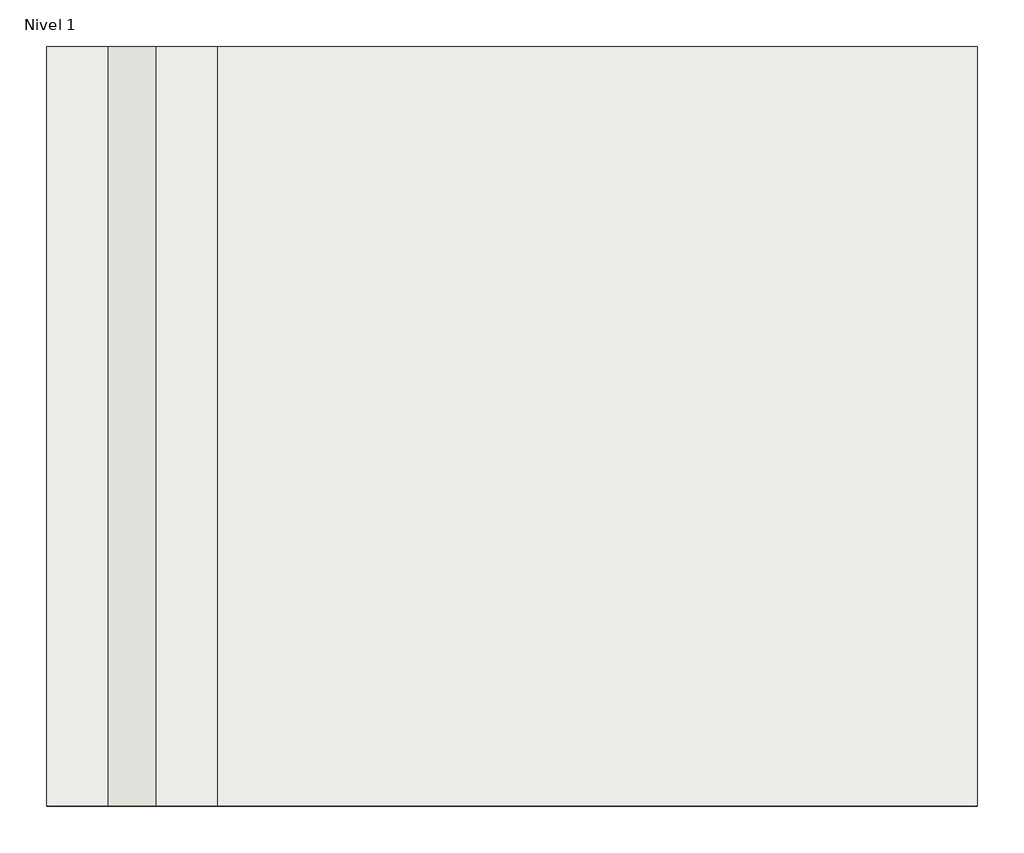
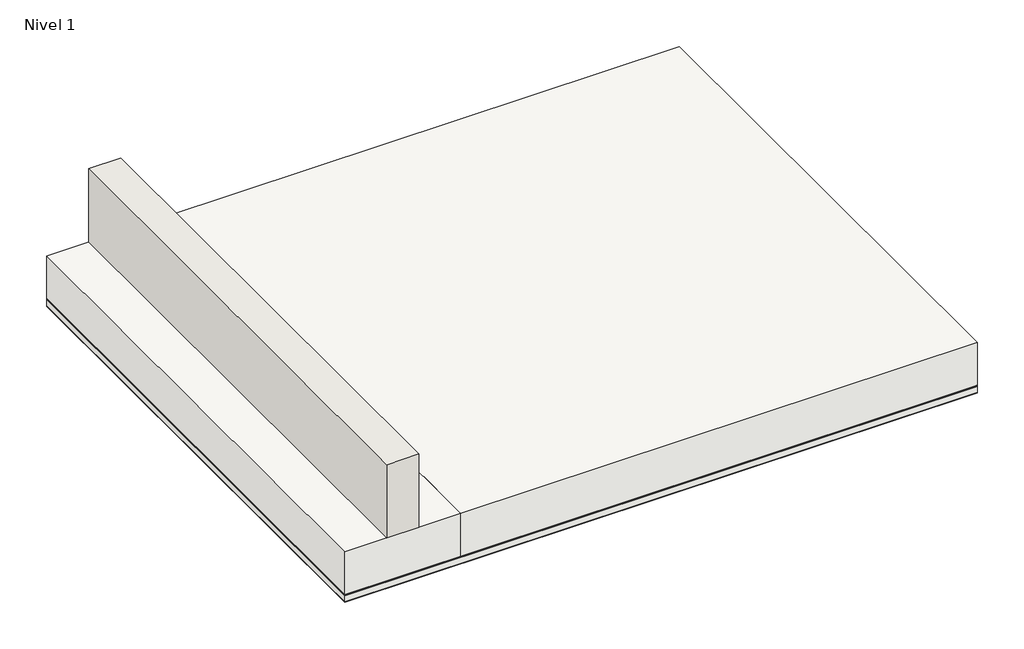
# One storey: 2 slabs, 1 footing, 1 wall.
"""IFC4 building model written with IfcOpenShell, lengths in millimetres."""

from ifc_helpers import new_model, si_unit, frame, origin, origin_with_axes, place, context, project, spatial, polyline, outline, extrude, element, save

model = new_model("IFC4")

# Units and contexts
model_context = context("Model", 3, world=origin())
ifc_project = project(units=[si_unit("LENGTHUNIT", "METRE", prefix="MILLI")], contexts=[model_context])

# Site, building, storey
site = spatial("IfcSite", under=ifc_project)
building = spatial("IfcBuilding", under=site)
storey = spatial("IfcBuildingStorey", under=building, Name="Nivel 1", Elevation=0.0)

# Footing
placement = place(None, origin())
element("IfcFooting", 1, ObjectType="ZapataCorrida", at=placement, inside=storey, context=model_context, shape_type="SweptSolid", body=[
    extrude(outline(polyline([(-7054.9527165, 913.1571083), (-6154.9527165, 913.1571083), (-6154.9527165, -3086.8428917), (-7054.9527165, -3086.8428917), (-7054.9527165, 913.1571083)])), frame((0.0, 0.0, -350.0), z_axis=(0.0, 0.0, 1.0), x_axis=(1.0, 0.0, 0.0)), (0.0, 0.0, 1.0), 350.0),
])

# Slabs
element("IfcSlab", 2, ObjectType="EstructurasEnterradas-SinAislamiento_Placa_P-6", at=placement, inside=storey, context=model_context, shape_type="SweptSolid", body=[
    extrude(outline(polyline([(-2154.9527165, 913.1571083), (-2154.9527165, -3086.8428917), (-7054.9527165, -3086.8428917), (-7054.9527165, 913.1571083), (-2154.9527165, 913.1571083)])), frame((0.0, 0.0, -352.0), z_axis=(0.0, 0.0, 1.0), x_axis=(1.0, 0.0, 0.0)), (0.0, 0.0, 1.0), 2.0),
    extrude(outline(polyline([(-2154.9527165, 913.1571083), (-2154.9527165, -3086.8428917), (-7054.9527165, -3086.8428917), (-7054.9527165, 913.1571083), (-2154.9527165, 913.1571083)])), frame((0.0, 0.0, -354.0), z_axis=(0.0, 0.0, 1.0), x_axis=(1.0, 0.0, 0.0)), (0.0, 0.0, 1.0), 2.0),
    extrude(outline(polyline([(-2154.9527165, 913.1571083), (-2154.9527165, -3086.8428917), (-7054.9527165, -3086.8428917), (-7054.9527165, 913.1571083), (-2154.9527165, 913.1571083)])), frame((0.0, 0.0, -356.0), z_axis=(0.0, 0.0, 1.0), x_axis=(1.0, 0.0, 0.0)), (0.0, 0.0, 1.0), 2.0),
    extrude(outline(polyline([(-2154.9527165, 913.1571083), (-2154.9527165, -3086.8428917), (-7054.9527165, -3086.8428917), (-7054.9527165, 913.1571083), (-2154.9527165, 913.1571083)])), frame((0.0, 0.0, -358.0), z_axis=(0.0, 0.0, 1.0), x_axis=(1.0, 0.0, 0.0)), (0.0, 0.0, 1.0), 2.0),
    extrude(outline(polyline([(-2154.9527165, 913.1571083), (-2154.9527165, -3086.8428917), (-7054.9527165, -3086.8428917), (-7054.9527165, 913.1571083), (-2154.9527165, 913.1571083)])), frame((0.0, 0.0, -408.0), z_axis=(0.0, 0.0, 1.0), x_axis=(1.0, 0.0, 0.0)), (0.0, 0.0, 1.0), 50.0),
    extrude(outline(polyline([(-2154.9527165, 913.1571083), (-2154.9527165, -3086.8428917), (-7054.9527165, -3086.8428917), (-7054.9527165, 913.1571083), (-2154.9527165, 913.1571083)])), frame((0.0, 0.0, -414.0), z_axis=(0.0, 0.0, 1.0), x_axis=(1.0, 0.0, 0.0)), (0.0, 0.0, 1.0), 6.0),
])
element("IfcSlab", 3, ObjectType="Placa", at=placement, inside=storey, context=model_context, shape_type="SweptSolid", body=[
    extrude(outline(polyline([(-2154.9527165, 913.1571083), (-2154.9527165, -3086.8428917), (-6154.9527165, -3086.8428917), (-6154.9527165, 913.1571083), (-2154.9527165, 913.1571083)])), frame((0.0, 0.0, -350.0), z_axis=(0.0, 0.0, 1.0), x_axis=(1.0, 0.0, 0.0)), (0.0, 0.0, 1.0), 350.0),
])

# Wall
element("IfcWall", 4, ObjectType="Muro", at=placement, inside=storey, context=model_context, shape_type="SweptSolid", body=[
    extrude(outline(polyline([(-6729.9527165, -3086.8428917), (-6729.9527165, 913.1571083), (-6479.9527165, 913.1571083), (-6479.9527165, -3086.8428917), (-6729.9527165, -3086.8428917)])), origin_with_axes(), (0.0, 0.0, 1.0), 600.0),
])

save(model, "model.ifc")
